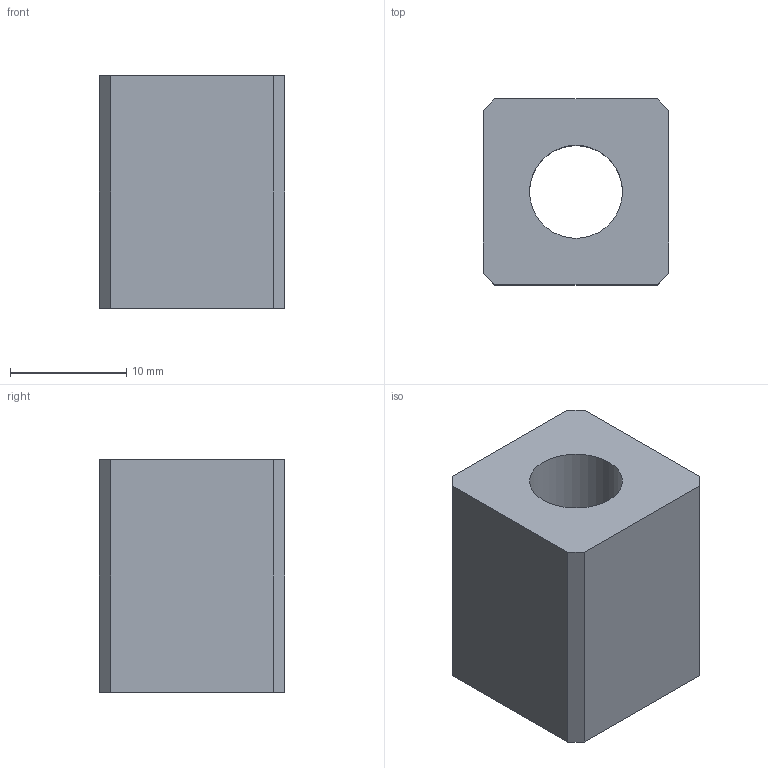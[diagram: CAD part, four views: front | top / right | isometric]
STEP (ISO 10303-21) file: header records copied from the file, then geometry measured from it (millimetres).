
FILE_DESCRIPTION(('FreeCAD Model'),'2;1');
FILE_NAME('Open CASCADE Shape Model','2026-09-14T15:28:17',('Author'),( ''),'Open CASCADE STEP processor 7.8','FreeCAD','Unknown');
FILE_SCHEMA(('AUTOMOTIVE_DESIGN { 1 0 10303 214 1 1 1 1 }'));
Length unit declared in the file: millimetre
Products named in the file (1): Extrude
Bounding box: 16 x 16 x 20 mm (x, y, z)
Volume: 4074.7 mm3; surface area: 2143.3 mm2
Topology: 1 solids, 1 shells, 11 faces, 27 edges, 18 vertices
Faces by surface type: plane 10, cylinder 1
Full cylindrical faces by diameter (mm): 8 x1
Entity records: 700 total; most frequent: CARTESIAN_POINT 111, DIRECTION 107, LINE 77, VECTOR 77, ORIENTED_EDGE 54, PCURVE 54, DEFINITIONAL_REPRESENTATION 54, EDGE_CURVE 27
